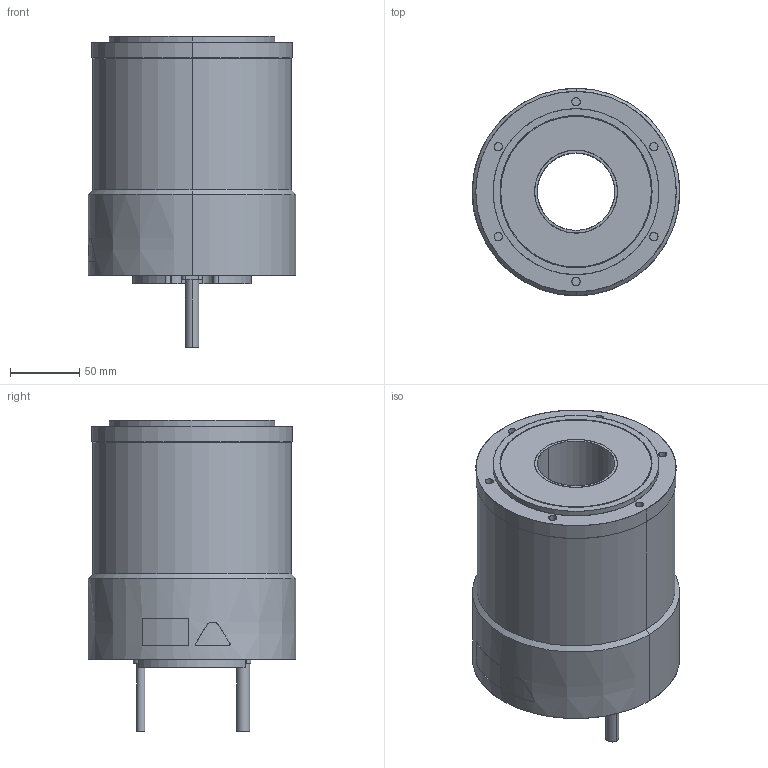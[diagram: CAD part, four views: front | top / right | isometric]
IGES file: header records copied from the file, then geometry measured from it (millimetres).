
Start section: SolidWorks IGES file using analytic representation for surfaces
Bounding box: 150.06 x 150 x 225 mm (x, y, z)
Surface area: 151914.9 mm2 (no closed solid volume)
Topology: 0 solids, 0 shells, 170 faces, 3730 edges, 3730 vertices
Faces by surface type: revolution 109, bspline 61
